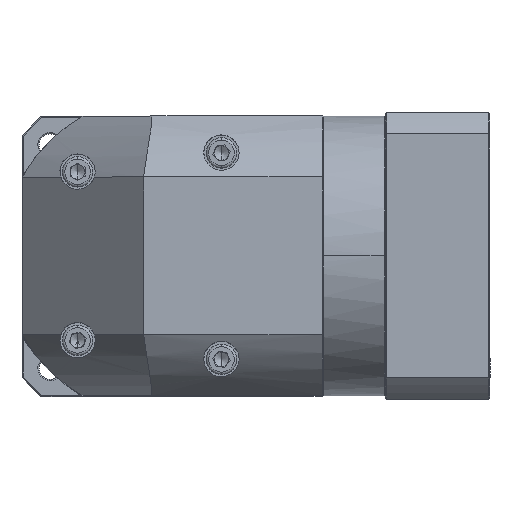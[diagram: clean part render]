
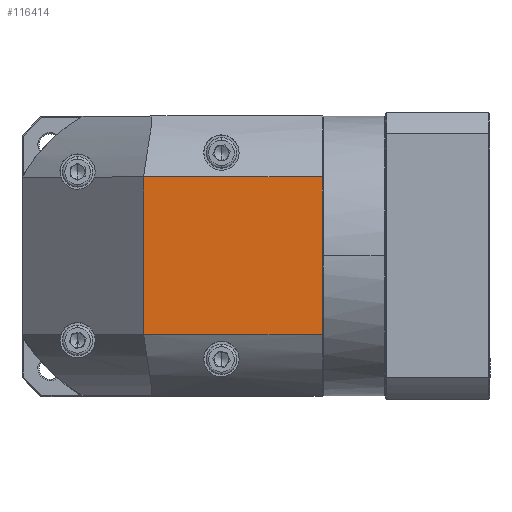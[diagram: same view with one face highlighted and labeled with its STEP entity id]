
A CAD part, top view. The second image highlights one B-rep face of the part: STEP entity #116414.
In plain terms, the highlighted planar face has unit normal (0, 0, 1).
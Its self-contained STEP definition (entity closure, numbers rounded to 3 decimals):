
#9582 = CARTESIAN_POINT ( 'NONE',  ( -3.847, 53.276, 93.924 ) ) ;
#12228 = ORIENTED_EDGE ( 'NONE', *, *, #92072, .F. ) ;
#14610 = EDGE_CURVE ( 'NONE', #107819, #84918, #115291, .T. ) ;
#16114 = LINE ( 'NONE', #9582, #106116 ) ;
#25440 = CARTESIAN_POINT ( 'NONE',  ( 119.553, 118.076, 93.924 ) ) ;
#25560 = DIRECTION ( 'NONE',  ( 0., -1., 0. ) ) ;
#27101 = LINE ( 'NONE', #113860, #73882 ) ;
#33327 = VECTOR ( 'NONE', #25560, 1000. ) ;
#33703 = CARTESIAN_POINT ( 'NONE',  ( 46.153, 53.276, 93.924 ) ) ;
#36098 = DIRECTION ( 'NONE',  ( 1., 0., 0. ) ) ;
#36670 = LINE ( 'NONE', #130877, #33327 ) ;
#39509 = DIRECTION ( 'NONE',  ( 0., 0., -1. ) ) ;
#40389 = EDGE_LOOP ( 'NONE', ( #105155, #111591, #12228, #103687 ) ) ;
#47057 = VECTOR ( 'NONE', #36098, 1000. ) ;
#47297 = CARTESIAN_POINT ( 'NONE',  ( -3.847, 118.076, 93.924 ) ) ;
#51044 = VERTEX_POINT ( 'NONE', #33703 ) ;
#51919 = VERTEX_POINT ( 'NONE', #95518 ) ;
#55718 = FACE_OUTER_BOUND ( 'NONE', #40389, .T. ) ;
#63238 = DIRECTION ( 'NONE',  ( -1., 0., 0. ) ) ;
#69509 = CARTESIAN_POINT ( 'NONE',  ( 46.153, 118.076, 93.924 ) ) ;
#70454 = EDGE_CURVE ( 'NONE', #51044, #107819, #27101, .T. ) ;
#70718 = DIRECTION ( 'NONE',  ( 0., 1., 0. ) ) ;
#73882 = VECTOR ( 'NONE', #70718, 1000. ) ;
#77830 = AXIS2_PLACEMENT_3D ( 'NONE', #81535, #39509, #124708 ) ;
#81535 = CARTESIAN_POINT ( 'NONE',  ( 53.653, 85.676, 93.924 ) ) ;
#84918 = VERTEX_POINT ( 'NONE', #25440 ) ;
#92072 = EDGE_CURVE ( 'NONE', #51919, #51044, #16114, .T. ) ;
#95518 = CARTESIAN_POINT ( 'NONE',  ( 119.553, 53.276, 93.924 ) ) ;
#103687 = ORIENTED_EDGE ( 'NONE', *, *, #131698, .F. ) ;
#105155 = ORIENTED_EDGE ( 'NONE', *, *, #14610, .F. ) ;
#106116 = VECTOR ( 'NONE', #63238, 1000. ) ;
#107819 = VERTEX_POINT ( 'NONE', #69509 ) ;
#111591 = ORIENTED_EDGE ( 'NONE', *, *, #70454, .F. ) ;
#113860 = CARTESIAN_POINT ( 'NONE',  ( 46.153, 143.176, 93.924 ) ) ;
#115291 = LINE ( 'NONE', #47297, #47057 ) ;
#116414 = ADVANCED_FACE ( 'NONE', ( #55718 ), #123793, .F. ) ;
#123793 = PLANE ( 'NONE',  #77830 ) ;
#124708 = DIRECTION ( 'NONE',  ( 0., -1., 0. ) ) ;
#130877 = CARTESIAN_POINT ( 'NONE',  ( 119.553, 143.176, 93.924 ) ) ;
#131698 = EDGE_CURVE ( 'NONE', #84918, #51919, #36670, .T. ) ;
